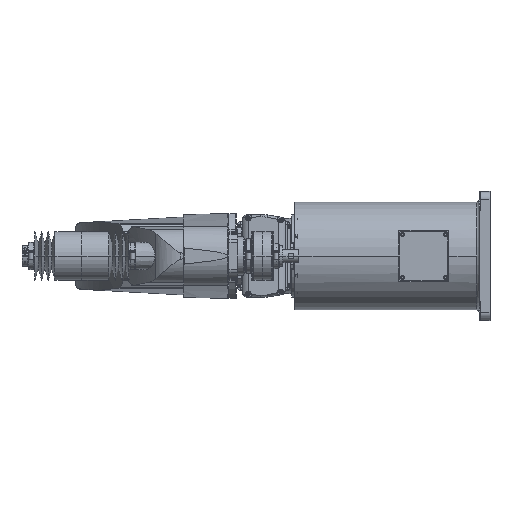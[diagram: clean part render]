
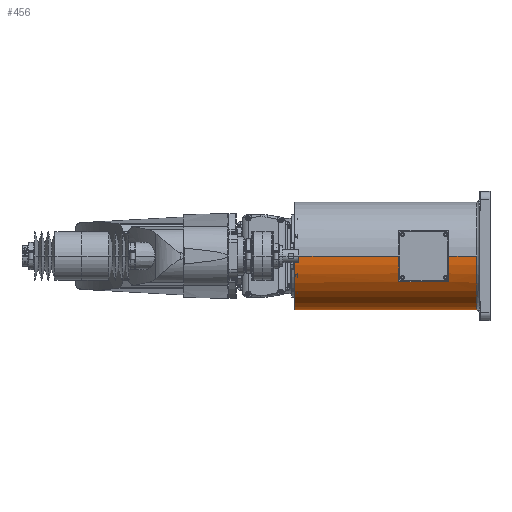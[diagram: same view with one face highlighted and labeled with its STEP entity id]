
A CAD part, left-side view. The second image highlights one B-rep face of the part: STEP entity #456.
In plain terms, the highlighted cylindrical face has radius 100 mm (diameter 200 mm), a partial arc.
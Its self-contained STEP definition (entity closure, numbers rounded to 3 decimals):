
#456 = ADVANCED_FACE( '', ( #2521 ), #2522, .T. );
#2521 = FACE_OUTER_BOUND( '', #6880, .T. );
#2522 = CYLINDRICAL_SURFACE( '', #6881, 100. );
#6880 = EDGE_LOOP( '', ( #11467, #11468, #11469, #11470, #11471, #11472, #11473, #11474, #11475, #11476, #11477, #11478, #11479, #11480, #11481, #11482 ) );
#6881 = AXIS2_PLACEMENT_3D( '', #11483, #11484, #11485 );
#11467 = ORIENTED_EDGE( '', *, *, #27199, .F. );
#11468 = ORIENTED_EDGE( '', *, *, #27200, .T. );
#11469 = ORIENTED_EDGE( '', *, *, #27201, .T. );
#11470 = ORIENTED_EDGE( '', *, *, #27202, .T. );
#11471 = ORIENTED_EDGE( '', *, *, #27203, .T. );
#11472 = ORIENTED_EDGE( '', *, *, #27204, .T. );
#11473 = ORIENTED_EDGE( '', *, *, #27205, .T. );
#11474 = ORIENTED_EDGE( '', *, *, #27206, .T. );
#11475 = ORIENTED_EDGE( '', *, *, #27207, .T. );
#11476 = ORIENTED_EDGE( '', *, *, #27208, .T. );
#11477 = ORIENTED_EDGE( '', *, *, #27209, .F. );
#11478 = ORIENTED_EDGE( '', *, *, #27210, .T. );
#11479 = ORIENTED_EDGE( '', *, *, #27211, .T. );
#11480 = ORIENTED_EDGE( '', *, *, #27212, .T. );
#11481 = ORIENTED_EDGE( '', *, *, #27213, .F. );
#11482 = ORIENTED_EDGE( '', *, *, #27214, .F. );
#11483 = CARTESIAN_POINT( '', ( 0., 194., 0. ) );
#11484 = DIRECTION( '', ( 0., -1., 0. ) );
#11485 = DIRECTION( '', ( 1., 0., 0. ) );
#27199 = EDGE_CURVE( '', #32278, #32279, #32280, .T. );
#27200 = EDGE_CURVE( '', #32278, #32281, #32282, .T. );
#27201 = EDGE_CURVE( '', #32281, #32283, #32284, .T. );
#27202 = EDGE_CURVE( '', #32283, #32285, #32286, .T. );
#27203 = EDGE_CURVE( '', #32285, #32287, #32288, .T. );
#27204 = EDGE_CURVE( '', #32287, #32289, #32290, .T. );
#27205 = EDGE_CURVE( '', #32289, #32291, #32292, .T. );
#27206 = EDGE_CURVE( '', #32291, #32293, #32294, .T. );
#27207 = EDGE_CURVE( '', #32293, #32295, #32296, .T. );
#27208 = EDGE_CURVE( '', #32295, #32297, #32298, .T. );
#27209 = EDGE_CURVE( '', #32299, #32297, #32300, .T. );
#27210 = EDGE_CURVE( '', #32299, #32301, #32302, .T. );
#27211 = EDGE_CURVE( '', #32301, #32303, #32304, .T. );
#27212 = EDGE_CURVE( '', #32303, #32305, #32306, .T. );
#27213 = EDGE_CURVE( '', #32307, #32305, #32308, .T. );
#27214 = EDGE_CURVE( '', #32279, #32307, #32309, .T. );
#32278 = VERTEX_POINT( '', #40584 );
#32279 = VERTEX_POINT( '', #40585 );
#32280 = LINE( '', #40586, #40587 );
#32281 = VERTEX_POINT( '', #40588 );
#32282 = CIRCLE( '', #40589, 100. );
#32283 = VERTEX_POINT( '', #40590 );
#32284 = LINE( '', #40591, #40592 );
#32285 = VERTEX_POINT( '', #40593 );
#32286 = CIRCLE( '', #40594, 100. );
#32287 = VERTEX_POINT( '', #40595 );
#32288 = LINE( '', #40596, #40597 );
#32289 = VERTEX_POINT( '', #40598 );
#32290 = CIRCLE( '', #40599, 100. );
#32291 = VERTEX_POINT( '', #40600 );
#32292 = B_SPLINE_CURVE_WITH_KNOTS( '', 3, ( #40601, #40602, #40603, #40604, #40605, #40606, #40607, #40608, #40609, #40610, #40611, #40612, #40613, #40614, #40615, #40616, #40617, #40618 ), .UNSPECIFIED., .F., .F., ( 4, 2, 2, 2, 2, 2, 2, 2, 4 ), ( -7.48, -6.36, -5.24, -4.12, -3., -2.25, -1.5, -0.75, 0. ), .UNSPECIFIED. );
#32293 = VERTEX_POINT( '', #40619 );
#32294 = LINE( '', #40620, #40621 );
#32295 = VERTEX_POINT( '', #40622 );
#32296 = CIRCLE( '', #40623, 100. );
#32297 = VERTEX_POINT( '', #40624 );
#32298 = CIRCLE( '', #40625, 100. );
#32299 = VERTEX_POINT( '', #40626 );
#32300 = LINE( '', #40627, #40628 );
#32301 = VERTEX_POINT( '', #40629 );
#32302 = CIRCLE( '', #40630, 100. );
#32303 = VERTEX_POINT( '', #40631 );
#32304 = LINE( '', #40632, #40633 );
#32305 = VERTEX_POINT( '', #40634 );
#32306 = CIRCLE( '', #40635, 100. );
#32307 = VERTEX_POINT( '', #40636 );
#32308 = LINE( '', #40637, #40638 );
#32309 = CIRCLE( '', #40639, 100. );
#40584 = CARTESIAN_POINT( '', ( 100., 324., 0. ) );
#40585 = CARTESIAN_POINT( '', ( 100., 363., 0. ) );
#40586 = CARTESIAN_POINT( '', ( 100., 194., 0. ) );
#40587 = VECTOR( '', #54313, 1. );
#40588 = CARTESIAN_POINT( '', ( 89.303, 324., -45. ) );
#40589 = AXIS2_PLACEMENT_3D( '', #54314, #54315, #54316 );
#40590 = CARTESIAN_POINT( '', ( 89.303, 326., -45. ) );
#40591 = CARTESIAN_POINT( '', ( 89.303, 325., -45. ) );
#40592 = VECTOR( '', #54317, 1. );
#40593 = CARTESIAN_POINT( '', ( 75.993, 326., -65. ) );
#40594 = AXIS2_PLACEMENT_3D( '', #54318, #54319, #54320 );
#40595 = CARTESIAN_POINT( '', ( 75.993, 324., -65. ) );
#40596 = CARTESIAN_POINT( '', ( 75.993, 325., -65. ) );
#40597 = VECTOR( '', #54321, 1. );
#40598 = CARTESIAN_POINT( '', ( 70.42, 324., -71. ) );
#40599 = AXIS2_PLACEMENT_3D( '', #54322, #54323, #54324 );
#40600 = CARTESIAN_POINT( '', ( 66.144, 320., -75. ) );
#40601 = CARTESIAN_POINT( '', ( 70.42, 324., -71. ) );
#40602 = CARTESIAN_POINT( '', ( 70.155, 324., -71.263 ) );
#40603 = CARTESIAN_POINT( '', ( 69.877, 323.974, -71.535 ) );
#40604 = CARTESIAN_POINT( '', ( 69.316, 323.861, -72.08 ) );
#40605 = CARTESIAN_POINT( '', ( 69.031, 323.776, -72.352 ) );
#40606 = CARTESIAN_POINT( '', ( 68.475, 323.543, -72.879 ) );
#40607 = CARTESIAN_POINT( '', ( 68.203, 323.396, -73.134 ) );
#40608 = CARTESIAN_POINT( '', ( 67.688, 323.046, -73.61 ) );
#40609 = CARTESIAN_POINT( '', ( 67.446, 322.842, -73.831 ) );
#40610 = CARTESIAN_POINT( '', ( 67.082, 322.458, -74.162 ) );
#40611 = CARTESIAN_POINT( '', ( 66.938, 322.284, -74.292 ) );
#40612 = CARTESIAN_POINT( '', ( 66.674, 321.897, -74.529 ) );
#40613 = CARTESIAN_POINT( '', ( 66.555, 321.685, -74.636 ) );
#40614 = CARTESIAN_POINT( '', ( 66.356, 321.234, -74.812 ) );
#40615 = CARTESIAN_POINT( '', ( 66.277, 320.995, -74.882 ) );
#40616 = CARTESIAN_POINT( '', ( 66.171, 320.503, -74.976 ) );
#40617 = CARTESIAN_POINT( '', ( 66.144, 320.25, -75. ) );
#40618 = CARTESIAN_POINT( '', ( 66.144, 320., -75. ) );
#40619 = CARTESIAN_POINT( '', ( 66.144, 25., -75. ) );
#40620 = CARTESIAN_POINT( '', ( 66.144, 172.5, -75. ) );
#40621 = VECTOR( '', #54325, 1. );
#40622 = CARTESIAN_POINT( '', ( 0., 25., -100. ) );
#40623 = AXIS2_PLACEMENT_3D( '', #54326, #54327, #54328 );
#40624 = CARTESIAN_POINT( '', ( -100., 25., 0. ) );
#40625 = AXIS2_PLACEMENT_3D( '', #54329, #54330, #54331 );
#40626 = CARTESIAN_POINT( '', ( -100., 76.7, 0. ) );
#40627 = CARTESIAN_POINT( '', ( -100., 194., 0. ) );
#40628 = VECTOR( '', #54332, 1. );
#40629 = CARTESIAN_POINT( '', ( -88., 76.7, -47.497 ) );
#40630 = AXIS2_PLACEMENT_3D( '', #54333, #54334, #54335 );
#40631 = CARTESIAN_POINT( '', ( -88., 169.7, -47.497 ) );
#40632 = CARTESIAN_POINT( '', ( -88., 123.2, -47.497 ) );
#40633 = VECTOR( '', #54336, 1. );
#40634 = CARTESIAN_POINT( '', ( -100., 169.7, 0. ) );
#40635 = AXIS2_PLACEMENT_3D( '', #54337, #54338, #54339 );
#40636 = CARTESIAN_POINT( '', ( -100., 363., 0. ) );
#40637 = CARTESIAN_POINT( '', ( -100., 194., 0. ) );
#40638 = VECTOR( '', #54340, 1. );
#40639 = AXIS2_PLACEMENT_3D( '', #54341, #54342, #54343 );
#54313 = DIRECTION( '', ( 0., 1., 0. ) );
#54314 = CARTESIAN_POINT( '', ( 0., 324., 0. ) );
#54315 = DIRECTION( '', ( 0., 1., 0. ) );
#54316 = DIRECTION( '', ( 1., 0., 0. ) );
#54317 = DIRECTION( '', ( 0., 1., 0. ) );
#54318 = CARTESIAN_POINT( '', ( 0., 326., 0. ) );
#54319 = DIRECTION( '', ( 0., 1., 0. ) );
#54320 = DIRECTION( '', ( 1., 0., 0. ) );
#54321 = DIRECTION( '', ( 0., -1., 0. ) );
#54322 = CARTESIAN_POINT( '', ( 0., 324., 0. ) );
#54323 = DIRECTION( '', ( 0., 1., 0. ) );
#54324 = DIRECTION( '', ( 1., 0., 0. ) );
#54325 = DIRECTION( '', ( 0., -1., 0. ) );
#54326 = CARTESIAN_POINT( '', ( 0., 25., 0. ) );
#54327 = DIRECTION( '', ( 0., 1., 0. ) );
#54328 = DIRECTION( '', ( 1., 0., 0. ) );
#54329 = CARTESIAN_POINT( '', ( 0., 25., 0. ) );
#54330 = DIRECTION( '', ( 0., 1., 0. ) );
#54331 = DIRECTION( '', ( 1., 0., 0. ) );
#54332 = DIRECTION( '', ( 0., -1., 0. ) );
#54333 = CARTESIAN_POINT( '', ( 0., 76.7, 0. ) );
#54334 = DIRECTION( '', ( 0., -1., 0. ) );
#54335 = DIRECTION( '', ( 1., 0., 0. ) );
#54336 = DIRECTION( '', ( 0., 1., 0. ) );
#54337 = CARTESIAN_POINT( '', ( 0., 169.7, 0. ) );
#54338 = DIRECTION( '', ( 0., 1., 0. ) );
#54339 = DIRECTION( '', ( 1., 0., 0. ) );
#54340 = DIRECTION( '', ( 0., -1., 0. ) );
#54341 = CARTESIAN_POINT( '', ( 0., 363., 0. ) );
#54342 = DIRECTION( '', ( 0., 1., 0. ) );
#54343 = DIRECTION( '', ( 1., 0., 0. ) );
